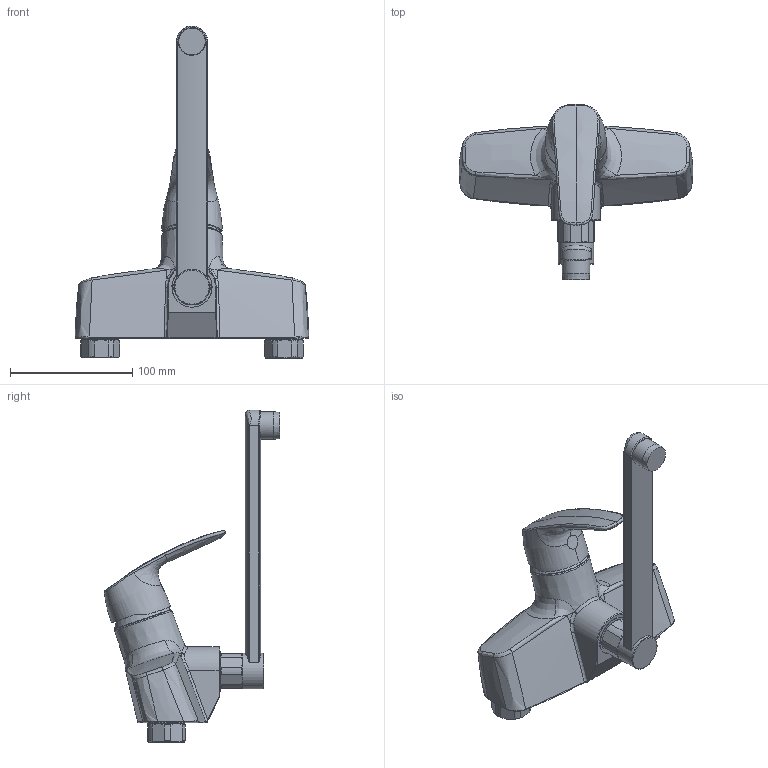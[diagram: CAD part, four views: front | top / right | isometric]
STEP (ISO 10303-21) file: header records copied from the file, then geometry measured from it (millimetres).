
FILE_DESCRIPTION (( 'STEP AP203' ), '1' );
FILE_NAME ('1036(2017).STEP', '2017-03-09T05:41:09', ( '' ), ( '' ), 'SwSTEP 2.0', 'SolidWorks 2016', '' );
FILE_SCHEMA (( 'CONFIG_CONTROL_DESIGN' ));
Length unit declared in the file: millimetre
Products named in the file (1): 1036(2017)
Bounding box: 191.05 x 143.6 x 271.45 mm (x, y, z)
Volume: 740690.5 mm3; surface area: 83604.7 mm2
Topology: 1 solids, 2 shells, 220 faces, 511 edges, 315 vertices
Faces by surface type: bspline 83, plane 48, cylinder 47, cone 41, torus 1
Full cylindrical faces by diameter (mm): 12.5 x2, 15.05 x1, 21.2 x2, 22.471 x1, 24 x2, 26 x2, 29 x3, 32.8 x1
Entity records: 19175 total; most frequent: CARTESIAN_POINT 15025, ORIENTED_EDGE 948, DIRECTION 624, EDGE_CURVE 474, VERTEX_POINT 302, AXIS2_PLACEMENT_3D 279, EDGE_LOOP 264, B_SPLINE_CURVE_WITH_KNOTS 257
